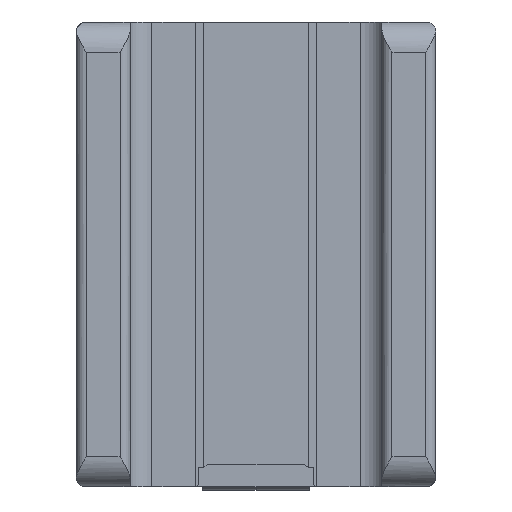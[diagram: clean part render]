
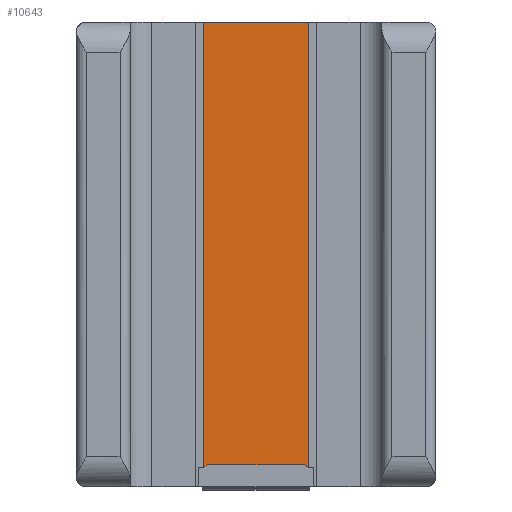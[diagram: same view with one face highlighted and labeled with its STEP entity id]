
A CAD part, front view. The second image highlights one B-rep face of the part: STEP entity #10643.
In plain terms, the highlighted planar face has unit normal (0, -1, 0).
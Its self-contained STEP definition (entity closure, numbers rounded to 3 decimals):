
#66 = EDGE_CURVE ( 'NONE', #9604, #1472, #2958, .T. ) ;
#117 = DIRECTION ( 'NONE',  ( 0., 0., -1. ) ) ;
#222 = EDGE_CURVE ( 'NONE', #4322, #9530, #9446, .T. ) ;
#517 = DIRECTION ( 'NONE',  ( 0., -1., 0. ) ) ;
#604 = CARTESIAN_POINT ( 'NONE',  ( 18.75, 5015.95, 1577.2 ) ) ;
#636 = FACE_OUTER_BOUND ( 'NONE', #698, .T. ) ;
#698 = EDGE_LOOP ( 'NONE', ( #11318, #8490, #11426, #5185, #4028, #10862 ) ) ;
#1472 = VERTEX_POINT ( 'NONE', #5861 ) ;
#1500 = DIRECTION ( 'NONE',  ( 1., 0., 0. ) ) ;
#2000 = PLANE ( 'NONE',  #11519 ) ;
#2958 = LINE ( 'NONE', #12200, #10597 ) ;
#3490 = CIRCLE ( 'NONE', #7362, 1. ) ;
#3521 = CARTESIAN_POINT ( 'NONE',  ( 29.45, 5015.95, 1620.3 ) ) ;
#3702 = LINE ( 'NONE', #3855, #9050 ) ;
#3855 = CARTESIAN_POINT ( 'NONE',  ( 19.05, 5015.95, 1620.3 ) ) ;
#3921 = DIRECTION ( 'NONE',  ( -1., 0., 0. ) ) ;
#4028 = ORIENTED_EDGE ( 'NONE', *, *, #4345, .F. ) ;
#4265 = CARTESIAN_POINT ( 'NONE',  ( 24.25, 5015.95, 1620.3 ) ) ;
#4322 = VERTEX_POINT ( 'NONE', #6090 ) ;
#4345 = EDGE_CURVE ( 'NONE', #4322, #13719, #13831, .T. ) ;
#5185 = ORIENTED_EDGE ( 'NONE', *, *, #12238, .T. ) ;
#5861 = CARTESIAN_POINT ( 'NONE',  ( 29.036, 5015.95, 1576.5 ) ) ;
#6090 = CARTESIAN_POINT ( 'NONE',  ( 29.45, 5015.95, 1620.3 ) ) ;
#6101 = CARTESIAN_POINT ( 'NONE',  ( 19.05, 5015.95, 1576.246 ) ) ;
#6113 = CARTESIAN_POINT ( 'NONE',  ( 24.25, 5015.95, 1620.3 ) ) ;
#6504 = VECTOR ( 'NONE', #3921, 1000. ) ;
#6698 = EDGE_CURVE ( 'NONE', #9530, #7960, #3702, .T. ) ;
#6731 = EDGE_CURVE ( 'NONE', #7960, #9604, #3490, .T. ) ;
#7362 = AXIS2_PLACEMENT_3D ( 'NONE', #604, #12189, #7506 ) ;
#7493 = CARTESIAN_POINT ( 'NONE',  ( 29.75, 5015.95, 1577.2 ) ) ;
#7506 = DIRECTION ( 'NONE',  ( 1., 0., 0. ) ) ;
#7589 = DIRECTION ( 'NONE',  ( 1., 0., 0. ) ) ;
#7689 = DIRECTION ( 'NONE',  ( 0., -1., 0. ) ) ;
#7742 = CARTESIAN_POINT ( 'NONE',  ( 19.05, 5015.95, 1620.3 ) ) ;
#7960 = VERTEX_POINT ( 'NONE', #6101 ) ;
#8176 = CIRCLE ( 'NONE', #14715, 1. ) ;
#8474 = DIRECTION ( 'NONE',  ( 0., 0., -1. ) ) ;
#8490 = ORIENTED_EDGE ( 'NONE', *, *, #6731, .T. ) ;
#8984 = VECTOR ( 'NONE', #117, 1000. ) ;
#9050 = VECTOR ( 'NONE', #8474, 1000. ) ;
#9446 = LINE ( 'NONE', #6113, #6504 ) ;
#9530 = VERTEX_POINT ( 'NONE', #7742 ) ;
#9604 = VERTEX_POINT ( 'NONE', #11288 ) ;
#10376 = CARTESIAN_POINT ( 'NONE',  ( 29.45, 5015.95, 1576.246 ) ) ;
#10597 = VECTOR ( 'NONE', #7589, 1000. ) ;
#10643 = ADVANCED_FACE ( 'NONE', ( #636 ), #2000, .T. ) ;
#10862 = ORIENTED_EDGE ( 'NONE', *, *, #222, .T. ) ;
#11288 = CARTESIAN_POINT ( 'NONE',  ( 19.464, 5015.95, 1576.5 ) ) ;
#11318 = ORIENTED_EDGE ( 'NONE', *, *, #6698, .T. ) ;
#11426 = ORIENTED_EDGE ( 'NONE', *, *, #66, .T. ) ;
#11519 = AXIS2_PLACEMENT_3D ( 'NONE', #4265, #7689, #12451 ) ;
#12189 = DIRECTION ( 'NONE',  ( 0., -1., 0. ) ) ;
#12200 = CARTESIAN_POINT ( 'NONE',  ( 24.25, 5015.95, 1576.5 ) ) ;
#12238 = EDGE_CURVE ( 'NONE', #1472, #13719, #8176, .T. ) ;
#12451 = DIRECTION ( 'NONE',  ( 1., 0., 0. ) ) ;
#13719 = VERTEX_POINT ( 'NONE', #10376 ) ;
#13831 = LINE ( 'NONE', #3521, #8984 ) ;
#14715 = AXIS2_PLACEMENT_3D ( 'NONE', #7493, #517, #1500 ) ;
